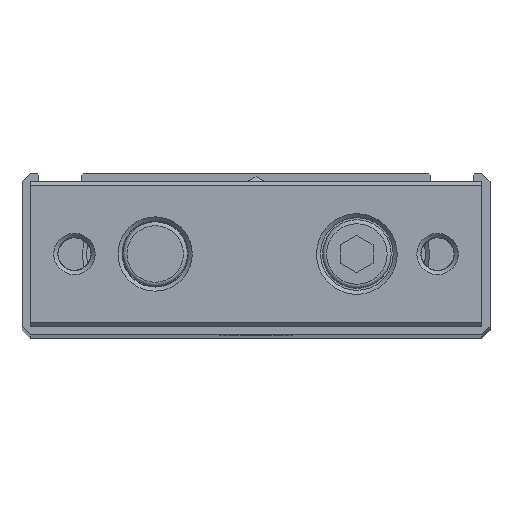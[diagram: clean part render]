
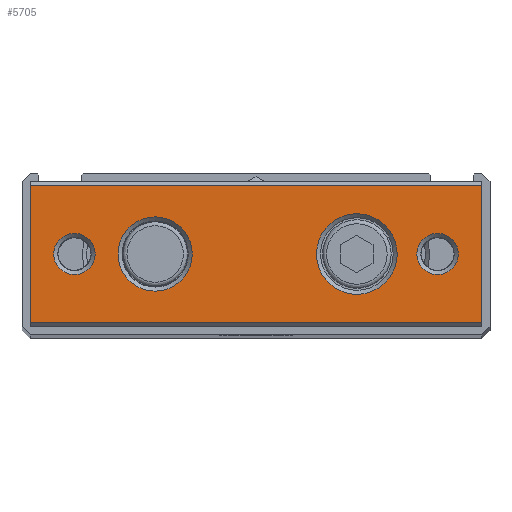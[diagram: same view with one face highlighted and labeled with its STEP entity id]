
A CAD part, top view. The second image highlights one B-rep face of the part: STEP entity #5705.
In plain terms, the highlighted planar face has unit normal (0, 0, 1).
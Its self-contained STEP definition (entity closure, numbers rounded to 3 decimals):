
#3656=CARTESIAN_POINT('',(-28.,-8.5,264.0));
#3657=VERTEX_POINT('',#3656);
#3664=CARTESIAN_POINT('',(-28.,8.5,264.0));
#3665=VERTEX_POINT('',#3664);
#3666=CARTESIAN_POINT('',(-28.,8.5,264.0));
#3667=DIRECTION('',(0.0,-1.0,0.0));
#3668=VECTOR('',#3667,17.0);
#3669=LINE('',#3666,#3668);
#3670=EDGE_CURVE('',#3665,#3657,#3669,.T.);
#3856=CARTESIAN_POINT('',(28.,-8.5,264.0));
#3857=VERTEX_POINT('',#3856);
#3864=CARTESIAN_POINT('',(28.,-8.5,264.0));
#3865=DIRECTION('',(-1.0,0.0,0.0));
#3866=VECTOR('',#3865,56.);
#3867=LINE('',#3864,#3866);
#3868=EDGE_CURVE('',#3857,#3657,#3867,.T.);
#3935=CARTESIAN_POINT('',(28.,8.5,264.0));
#3936=VERTEX_POINT('',#3935);
#3943=CARTESIAN_POINT('',(28.,-8.5,264.0));
#3944=DIRECTION('',(0.0,1.0,0.0));
#3945=VECTOR('',#3944,17.0);
#3946=LINE('',#3943,#3945);
#3947=EDGE_CURVE('',#3857,#3936,#3946,.T.);
#5641=CARTESIAN_POINT('',(17.5,0.,264.0));
#5642=VERTEX_POINT('',#5641);
#5643=CARTESIAN_POINT('',(12.5,0.,264.0));
#5644=DIRECTION('',(0.0,0.0,1.0));
#5645=DIRECTION('',(-1.0,0.0,0.0));
#5646=AXIS2_PLACEMENT_3D('',#5643,#5644,#5645);
#5647=CIRCLE('',#5646,5.0);
#5648=EDGE_CURVE('',#5642,#5642,#5647,.T.);
#5653=CARTESIAN_POINT('',(0.0,-9.,264.0));
#5654=DIRECTION('',(0.0,0.0,1.0));
#5655=DIRECTION('',(1.0,0.0,0.0));
#5656=AXIS2_PLACEMENT_3D('',#5653,#5654,#5655);
#5657=PLANE('',#5656);
#5658=ORIENTED_EDGE('',*,*,#3868,.F.);
#5659=ORIENTED_EDGE('',*,*,#3947,.T.);
#5660=CARTESIAN_POINT('',(-28.,8.5,264.0));
#5661=DIRECTION('',(1.0,0.0,0.0));
#5662=VECTOR('',#5661,56.);
#5663=LINE('',#5660,#5662);
#5664=EDGE_CURVE('',#3665,#3936,#5663,.T.);
#5665=ORIENTED_EDGE('',*,*,#5664,.F.);
#5666=ORIENTED_EDGE('',*,*,#3670,.T.);
#5667=EDGE_LOOP('',(#5658,#5659,#5665,#5666));
#5668=FACE_OUTER_BOUND('',#5667,.T.);
#5669=CARTESIAN_POINT('',(-7.9,0.,264.0));
#5670=VERTEX_POINT('',#5669);
#5671=CARTESIAN_POINT('',(-12.5,0.,264.0));
#5672=DIRECTION('',(0.0,0.0,1.0));
#5673=DIRECTION('',(-1.0,0.0,0.0));
#5674=AXIS2_PLACEMENT_3D('',#5671,#5672,#5673);
#5675=CIRCLE('',#5674,4.6);
#5676=EDGE_CURVE('',#5670,#5670,#5675,.T.);
#5677=ORIENTED_EDGE('',*,*,#5676,.F.);
#5678=EDGE_LOOP('',(#5677));
#5679=FACE_BOUND('',#5678,.T.);
#5680=CARTESIAN_POINT('',(-19.933,0.,264.0));
#5681=VERTEX_POINT('',#5680);
#5682=CARTESIAN_POINT('',(-22.5,0.,264.0));
#5683=DIRECTION('',(0.0,0.0,1.0));
#5684=DIRECTION('',(-1.0,0.0,0.0));
#5685=AXIS2_PLACEMENT_3D('',#5682,#5683,#5684);
#5686=CIRCLE('',#5685,2.567);
#5687=EDGE_CURVE('',#5681,#5681,#5686,.T.);
#5688=ORIENTED_EDGE('',*,*,#5687,.F.);
#5689=EDGE_LOOP('',(#5688));
#5690=FACE_BOUND('',#5689,.T.);
#5691=CARTESIAN_POINT('',(25.067,0.,264.0));
#5692=VERTEX_POINT('',#5691);
#5693=CARTESIAN_POINT('',(22.5,0.,264.0));
#5694=DIRECTION('',(0.0,0.0,1.0));
#5695=DIRECTION('',(-1.0,0.0,0.0));
#5696=AXIS2_PLACEMENT_3D('',#5693,#5694,#5695);
#5697=CIRCLE('',#5696,2.567);
#5698=EDGE_CURVE('',#5692,#5692,#5697,.T.);
#5699=ORIENTED_EDGE('',*,*,#5698,.F.);
#5700=EDGE_LOOP('',(#5699));
#5701=FACE_BOUND('',#5700,.T.);
#5702=ORIENTED_EDGE('',*,*,#5648,.F.);
#5703=EDGE_LOOP('',(#5702));
#5704=FACE_BOUND('',#5703,.T.);
#5705=ADVANCED_FACE('',(#5668,#5679,#5690,#5701,#5704),#5657,.T.);
